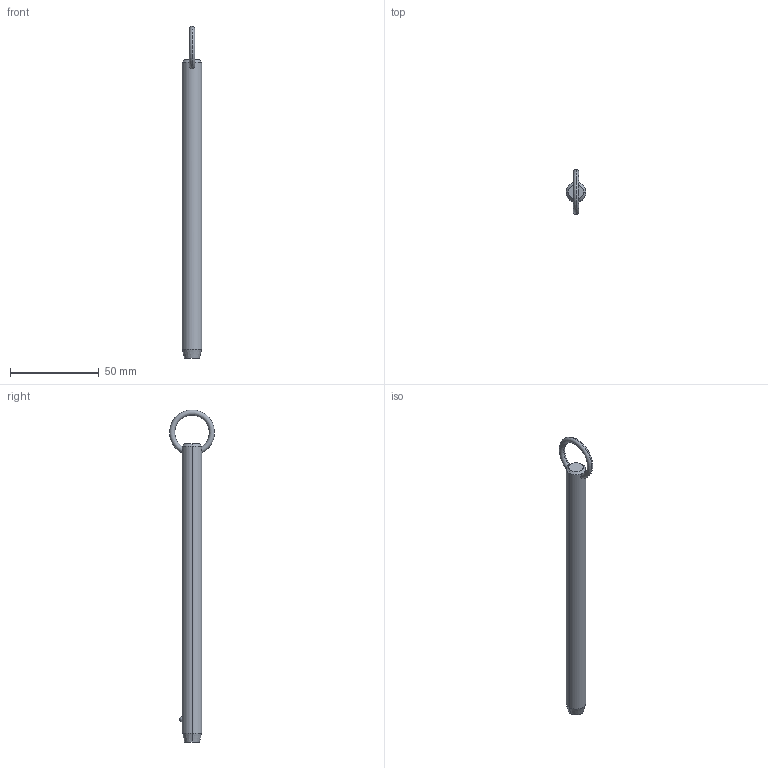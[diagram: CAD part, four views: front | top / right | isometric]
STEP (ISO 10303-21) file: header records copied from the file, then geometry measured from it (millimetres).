
FILE_DESCRIPTION (( 'STEP AP203' ), '1' );
FILE_NAME ('P1250.050-580.step', '2019-07-29T20:40:28', ( '' ), ( '' ), 'SwSTEP 2.0', 'SolidWorks 2017', '' );
FILE_SCHEMA (( 'CONFIG_CONTROL_DESIGN' ));
Length unit declared in the file: millimetre
Products named in the file (1): P1250.050-580
Bounding box: 11.1 x 25.32 x 186.85 mm (x, y, z)
Volume: 16530.2 mm3; surface area: 6507.6 mm2
Topology: 1 solids, 1 shells, 12 faces, 28 edges, 17 vertices
Faces by surface type: cone 4, torus 2, sphere 2, cylinder 2, plane 2
Entity records: 523 total; most frequent: CARTESIAN_POINT 190, DIRECTION 56, ORIENTED_EDGE 48, AXIS2_PLACEMENT_3D 25, EDGE_CURVE 24, EDGE_LOOP 15, VERTEX_POINT 15, FACE_OUTER_BOUND 12
